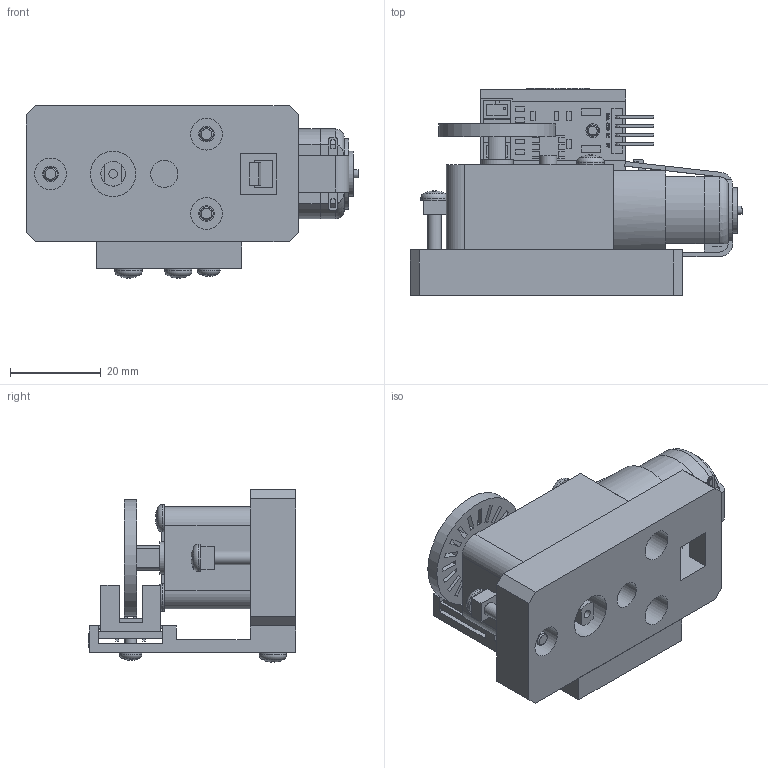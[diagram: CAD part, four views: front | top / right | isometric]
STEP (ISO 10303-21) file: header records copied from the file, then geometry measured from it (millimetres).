
FILE_DESCRIPTION(/* description */ (''),/* implementation_level */ '2;1');
FILE_NAME(/* name */ 'C:\Users\x300\Desktop\tt motor\lm393-dc-motor-speed_control.stp',/* time_stamp */ '2023-05-15T20:23:16+02:00',/* author */ ('x300'),/* organization */ (''),/* preprocessor_version */ 'ST-DEVELOPER v19',/* originating_system */ 'Autodesk Inventor 2023',/* authorisation */ '');
FILE_SCHEMA (('AUTOMOTIVE_DESIGN { 1 0 10303 214 3 1 1 }'));
Products named in the file (19): Assieme2; supporto_01; TT Motor; Part 8; Surface 1; Part 7; Part 6; Part 5; Part 4; Part 3; Part 2; Part 1; disco_forato_01; Lm393 Motor Speed Measuring Sensor Module; supporto_sensore_01; AS 1427 - M3 x 25; AS 1427 - M3 x 20; AS 1427 - M3 x 10; AS 1427 - M2,5 x 6
Assembly tree (20 placements, depth 3):
  Assieme2
    supporto_01
    TT Motor
      Part 8
      Surface 1
      Part 7
      Part 6
      Part 5
      Part 4
      Part 3
      Part 2
      Part 1
    disco_forato_01
    Lm393 Motor Speed Measuring Sensor Module
    supporto_sensore_01
    AS 1427 - M3 x 25  x2
    AS 1427 - M3 x 20
    AS 1427 - M3 x 10  x2
    AS 1427 - M2,5 x 6
Bounding box: 73.2 x 45.65 x 37.99 mm (x, y, z)
Volume: 47358.6 mm3; surface area: 25410.5 mm2
Topology: 20 solids, 21 shells, 1617 faces, 4361 edges, 2886 vertices
Faces by surface type: plane 984, bspline 441, cylinder 80, cone 74, torus 32, sphere 6
Full cylindrical faces by diameter (mm): 0.5 x1, 1.8 x1, 1.9 x2, 2.224 x1, 2.5 x5, 2.693 x5, 2.8 x1, 3 x9, 3.4 x3, 3.8 x1, 5.4 x2, 6 x1, 7 x3, 7.2 x1, 10 x3, 25.8 x1
Entity records: 66092 total; most frequent: CARTESIAN_POINT 29085, ORIENTED_EDGE 8382, DIRECTION 5757, EDGE_CURVE 4197, LINE 2903, VECTOR 2903, VERTEX_POINT 2782, EDGE_LOOP 1742
